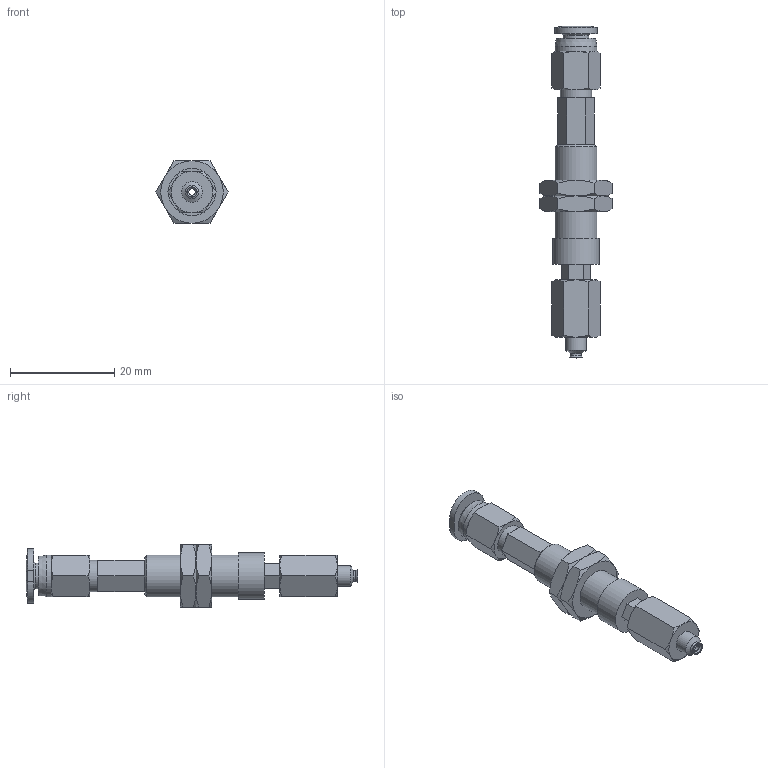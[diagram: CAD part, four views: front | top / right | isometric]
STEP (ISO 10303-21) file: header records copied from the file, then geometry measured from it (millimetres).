
FILE_DESCRIPTION(('STEP AP203'),'1');
FILE_NAME('-O.stp','2025-08-27T02:33:42',(' '),(' '),'Spatial InterOp 3D',' ',' ');
FILE_SCHEMA(('CONFIG_CONTROL_DESIGN'));
Length unit declared in the file: millimetre
Products named in the file (7): BNABPFTH-2A-3-※-O; ADAPTER; NAPFTH-2A-3-MBODY; Nut-2A-3-h; NAPFTH-2A-3-FBODY; BPFG-2A-※; PC-C_04-M3
Assembly tree (7 placements, depth 2):
  BNABPFTH-2A-3-※-O
    ADAPTER
    NAPFTH-2A-3-MBODY
    Nut-2A-3-h  x2
    NAPFTH-2A-3-FBODY
    BPFG-2A-※
    PC-C_04-M3
Bounding box: 13.86 x 63.77 x 12 mm (x, y, z)
Volume: 2628.9 mm3; surface area: 3880.1 mm2
Topology: 6 solids, 8 shells, 172 faces, 361 edges, 218 vertices
Faces by surface type: plane 71, cone 62, cylinder 22, torus 9, bspline 5, revolution 3
Full cylindrical faces by diameter (mm): 1.2 x3, 2 x2, 2.459 x1, 2.5 x2, 3 x3, 4 x1, 4.9 x1, 6 x1, 6.1 x1, 7.188 x2, 8 x2, 9 x1
Entity records: 4429 total; most frequent: CARTESIAN_POINT 1214, DIRECTION 589, ORIENTED_EDGE 522, EDGE_CURVE 262, AXIS2_PLACEMENT_3D 251, EDGE_LOOP 216, VERTEX_POINT 182, FACE_OUTER_BOUND 118
